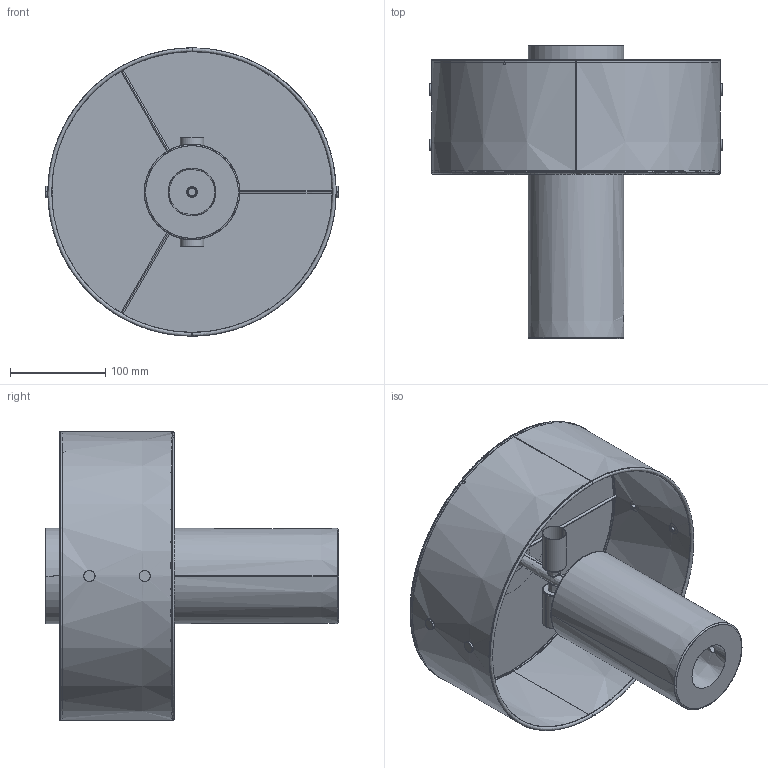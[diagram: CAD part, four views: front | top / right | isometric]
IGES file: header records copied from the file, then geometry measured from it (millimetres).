
Start section: SolidWorks IGES file using analytic representation for surfaces
Global section: file name: C:\Users\Agustin\Desktop\COMPARTIDA\Nueva Coleccion Septiembre 2026\XETA\XETA_S1362\3D\XETA_S1362.IGS; native system: SolidWorks 2023; preprocessor: SolidWorks 2023; author: Agustin; date: 260625.120951; units: millimetre
Bounding box: 307 x 307.01 x 302 mm (x, y, z)
Surface area: 520249.8 mm2 (no closed solid volume)
Topology: 0 solids, 0 shells, 251 faces, 4397 edges, 4397 vertices
Faces by surface type: revolution 160, bspline 91
